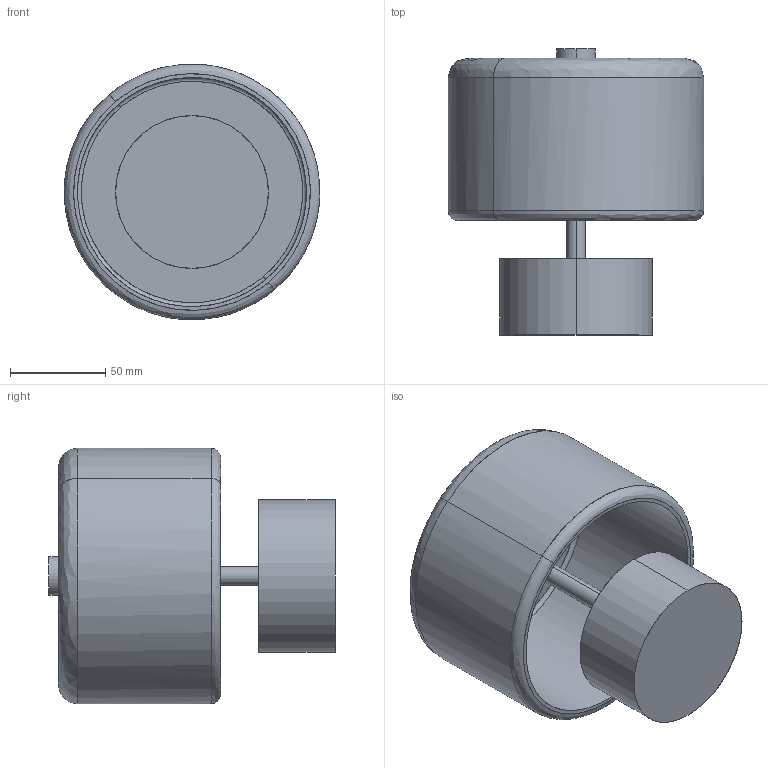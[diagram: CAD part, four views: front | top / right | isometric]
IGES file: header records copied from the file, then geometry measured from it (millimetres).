
Start section: SolidWorks IGES file using analytic representation for surfaces
Global section: file name: C:\Users\Agus\Desktop\NOVEDADES_2023_1\AORA_A1129\3D\AORA_A1129.IGS; native system: SolidWorks 2018; preprocessor: SolidWorks 2018; author: Agus; date: 230214.122214; units: millimetre
Bounding box: 133.94 x 150 x 133.94 mm (x, y, z)
Surface area: 114064.3 mm2 (no closed solid volume)
Topology: 0 solids, 0 shells, 22 faces, 712 edges, 712 vertices
Faces by surface type: bspline 16, revolution 6
